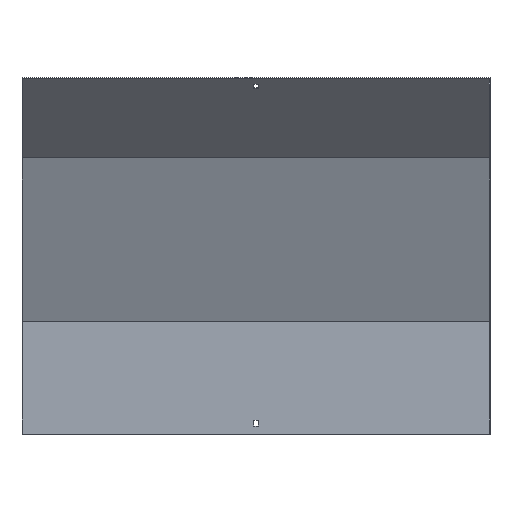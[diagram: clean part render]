
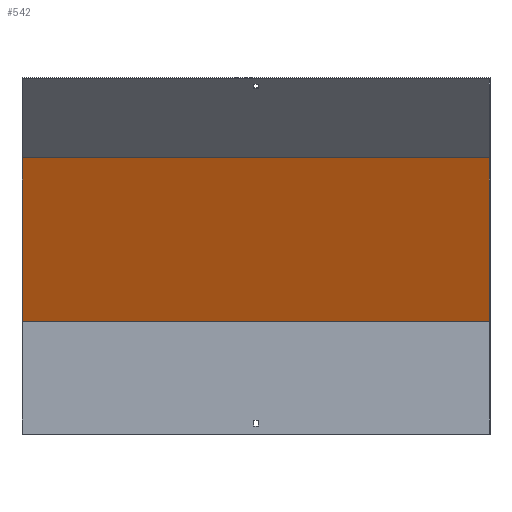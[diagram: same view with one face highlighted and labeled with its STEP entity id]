
A CAD part, front view. The second image highlights one B-rep face of the part: STEP entity #542.
In plain terms, the highlighted planar face has unit normal (0, -0.924, -0.383).
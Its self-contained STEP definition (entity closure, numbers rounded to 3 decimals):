
#4 = EDGE_CURVE ( 'NONE', #772, #579, #706, .T. ) ;
#5 = DIRECTION ( 'NONE',  ( -1., 0., 0. ) ) ;
#79 = DIRECTION ( 'NONE',  ( -1., 0., 0. ) ) ;
#89 = CARTESIAN_POINT ( 'NONE',  ( 350., 75.428, 31.243 ) ) ;
#92 = PLANE ( 'NONE',  #97 ) ;
#97 = AXIS2_PLACEMENT_3D ( 'NONE', #808, #425, #219 ) ;
#104 = CARTESIAN_POINT ( 'NONE',  ( 350., -83.431, 414.764 ) ) ;
#139 = LINE ( 'NONE', #469, #752 ) ;
#145 = EDGE_LOOP ( 'NONE', ( #692, #682, #810, #226 ) ) ;
#161 = LINE ( 'NONE', #89, #741 ) ;
#166 = FACE_OUTER_BOUND ( 'NONE', #145, .T. ) ;
#219 = DIRECTION ( 'NONE',  ( 0., 0.383, -0.924 ) ) ;
#226 = ORIENTED_EDGE ( 'NONE', *, *, #318, .T. ) ;
#258 = CARTESIAN_POINT ( 'NONE',  ( -350., -83.431, 414.764 ) ) ;
#276 = VERTEX_POINT ( 'NONE', #104 ) ;
#318 = EDGE_CURVE ( 'NONE', #276, #579, #465, .T. ) ;
#332 = CARTESIAN_POINT ( 'NONE',  ( -350., 18.5, 168.68 ) ) ;
#357 = EDGE_CURVE ( 'NONE', #852, #772, #139, .T. ) ;
#423 = DIRECTION ( 'NONE',  ( 0., -0.383, 0.924 ) ) ;
#425 = DIRECTION ( 'NONE',  ( 0., -0.924, -0.383 ) ) ;
#460 = EDGE_CURVE ( 'NONE', #852, #276, #161, .T. ) ;
#465 = LINE ( 'NONE', #513, #599 ) ;
#469 = CARTESIAN_POINT ( 'NONE',  ( 351.5, 18.5, 168.68 ) ) ;
#513 = CARTESIAN_POINT ( 'NONE',  ( 351.5, -83.431, 414.764 ) ) ;
#542 = ADVANCED_FACE ( 'NONE', ( #166 ), #92, .T. ) ;
#579 = VERTEX_POINT ( 'NONE', #258 ) ;
#599 = VECTOR ( 'NONE', #79, 1000. ) ;
#682 = ORIENTED_EDGE ( 'NONE', *, *, #357, .F. ) ;
#692 = ORIENTED_EDGE ( 'NONE', *, *, #4, .F. ) ;
#706 = LINE ( 'NONE', #838, #769 ) ;
#741 = VECTOR ( 'NONE', #423, 1000. ) ;
#752 = VECTOR ( 'NONE', #5, 1000. ) ;
#768 = DIRECTION ( 'NONE',  ( 0., -0.383, 0.924 ) ) ;
#769 = VECTOR ( 'NONE', #768, 1000. ) ;
#772 = VERTEX_POINT ( 'NONE', #332 ) ;
#781 = CARTESIAN_POINT ( 'NONE',  ( 350., 18.5, 168.68 ) ) ;
#808 = CARTESIAN_POINT ( 'NONE',  ( 351.5, 17.092, 172.08 ) ) ;
#810 = ORIENTED_EDGE ( 'NONE', *, *, #460, .T. ) ;
#838 = CARTESIAN_POINT ( 'NONE',  ( -350., 75.428, 31.243 ) ) ;
#852 = VERTEX_POINT ( 'NONE', #781 ) ;
